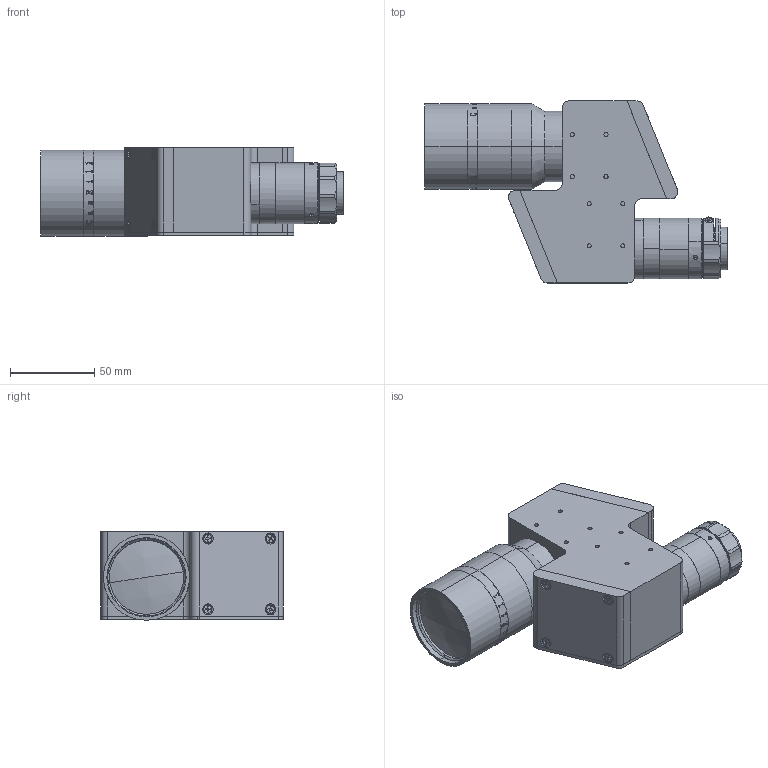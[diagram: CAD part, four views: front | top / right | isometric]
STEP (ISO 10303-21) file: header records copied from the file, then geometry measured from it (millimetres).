
FILE_DESCRIPTION (( 'STEP AP203' ), '1' );
FILE_NAME ('XF-MH055X543.STEP', '2020-04-13T06:33:21', ( 'puyufan' ), ( '' ), 'SwSTEP 2.0', 'SolidWorks 2014', '' );
FILE_SCHEMA (( 'CONFIG_CONTROL_DESIGN' ));
Length unit declared in the file: millimetre
Products named in the file (1): XF-MH055X543
Bounding box: 179.58 x 108 x 52.5 mm (x, y, z)
Surface area: 64055.5 mm2 (no closed solid volume)
Topology: 0 solids, 46 shells, 451 faces, 1921 edges, 1488 vertices
Faces by surface type: plane 219, cylinder 178, cone 45, bspline 5, sphere 2, torus 2
Entity records: 26272 total; most frequent: CARTESIAN_POINT 10787, DIRECTION 3153, ORIENTED_EDGE 2819, EDGE_CURVE 1919, VERTEX_POINT 1488, AXIS2_PLACEMENT_3D 1088, LINE 977, VECTOR 977
